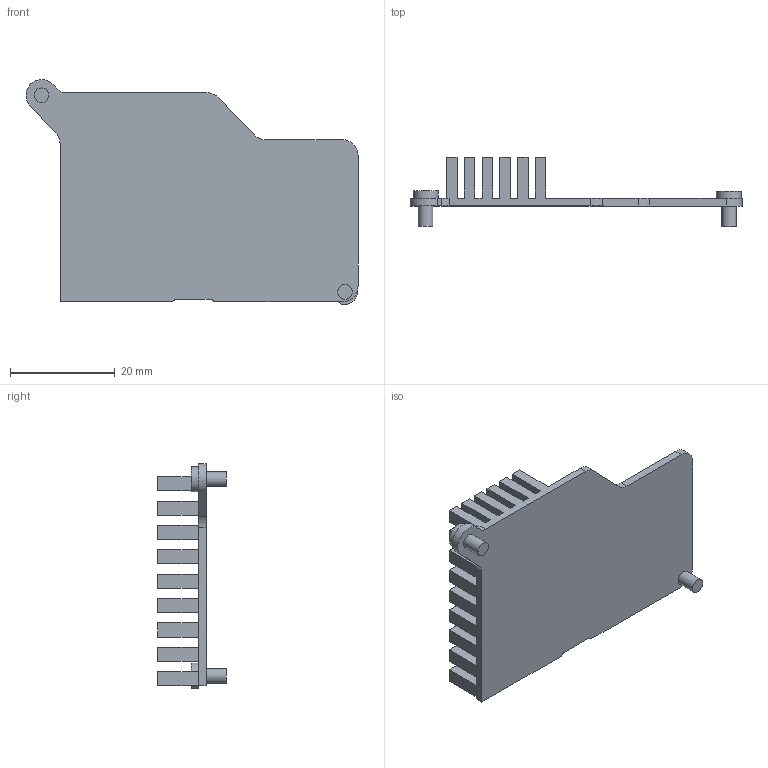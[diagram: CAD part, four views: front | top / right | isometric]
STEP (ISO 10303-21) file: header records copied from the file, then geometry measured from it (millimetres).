
FILE_DESCRIPTION(('Open CASCADE Model'),'2;1');
FILE_NAME('Open CASCADE Shape Model','2026-08-18T09:50:34',('Author'),( 'Open CASCADE'),'Open CASCADE STEP processor 7.9','Open CASCADE 7.9' ,'Unknown');
FILE_SCHEMA(('AUTOMOTIVE_DESIGN { 1 0 10303 214 1 1 1 1 }'));
Length unit declared in the file: millimetre
Products named in the file (1): active_cooler_heatsink
Bounding box: 63.5 x 13.18 x 42.99 mm (x, y, z)
Volume: 5524.3 mm3; surface area: 8576.5 mm2
Topology: 1 solids, 1 shells, 298 faces, 735 edges, 490 vertices
Faces by surface type: plane 283, cylinder 15
Full cylindrical faces by diameter (mm): 2.8 x2, 4.8 x2
Entity records: 18247 total; most frequent: CARTESIAN_POINT 3063, DIRECTION 2822, LINE 2136, VECTOR 2136, ORIENTED_EDGE 1470, PCURVE 1470, DEFINITIONAL_REPRESENTATION 1470, EDGE_CURVE 735
